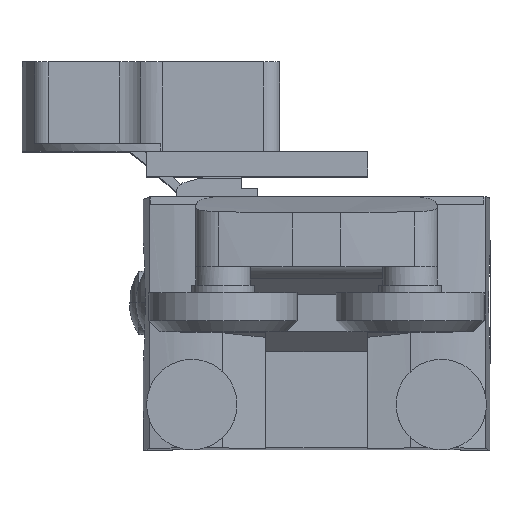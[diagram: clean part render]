
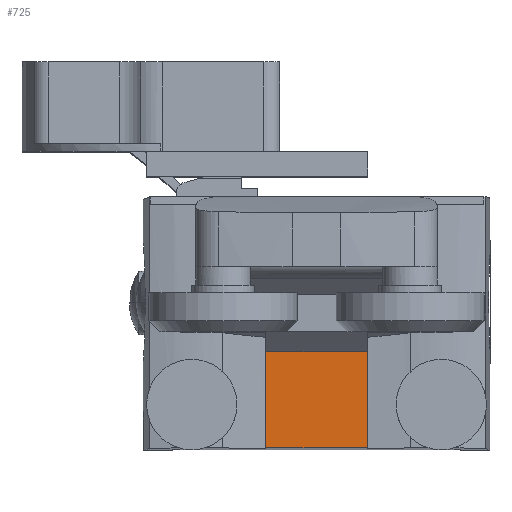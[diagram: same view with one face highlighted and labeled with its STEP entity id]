
A CAD part, top view. The second image highlights one B-rep face of the part: STEP entity #725.
In plain terms, the highlighted planar face has unit normal (0, 0, 1).
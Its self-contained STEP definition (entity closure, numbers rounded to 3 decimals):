
#725 = ADVANCED_FACE( '', ( #2151 ), #2152, .F. );
#2151 = FACE_OUTER_BOUND( '', #3640, .T. );
#2152 = PLANE( '', #3641 );
#3640 = EDGE_LOOP( '', ( #9634, #9635, #9636, #9637 ) );
#3641 = AXIS2_PLACEMENT_3D( '', #9638, #9639, #9640 );
#9634 = ORIENTED_EDGE( '', *, *, #12232, .F. );
#9635 = ORIENTED_EDGE( '', *, *, #12233, .T. );
#9636 = ORIENTED_EDGE( '', *, *, #12234, .F. );
#9637 = ORIENTED_EDGE( '', *, *, #12227, .F. );
#9638 = CARTESIAN_POINT( '', ( 23., -18.722, 12.6 ) );
#9639 = DIRECTION( '', ( 0., 0., -1. ) );
#9640 = DIRECTION( '', ( 0., -1., 0. ) );
#12227 = EDGE_CURVE( '', #15737, #15739, #15740, .T. );
#12232 = EDGE_CURVE( '', #15747, #15737, #15748, .T. );
#12233 = EDGE_CURVE( '', #15747, #15749, #15750, .T. );
#12234 = EDGE_CURVE( '', #15739, #15749, #15751, .T. );
#15737 = VERTEX_POINT( '', #21682 );
#15739 = VERTEX_POINT( '', #21684 );
#15740 = LINE( '', #21685, #21686 );
#15747 = VERTEX_POINT( '', #21706 );
#15748 = LINE( '', #21707, #21708 );
#15749 = VERTEX_POINT( '', #21709 );
#15750 = LINE( '', #21710, #21711 );
#15751 = LINE( '', #21712, #21713 );
#21682 = CARTESIAN_POINT( '', ( 6.5, -18.722, 12.6 ) );
#21684 = CARTESIAN_POINT( '', ( -6.5, -18.722, 12.6 ) );
#21685 = CARTESIAN_POINT( '', ( 23., -18.722, 12.6 ) );
#21686 = VECTOR( '', #24875, 1. );
#21706 = CARTESIAN_POINT( '', ( 6.5, -6.422, 12.6 ) );
#21707 = CARTESIAN_POINT( '', ( 6.5, -18.861, 12.6 ) );
#21708 = VECTOR( '', #24880, 1. );
#21709 = CARTESIAN_POINT( '', ( -6.5, -6.422, 12.6 ) );
#21710 = CARTESIAN_POINT( '', ( 23., -6.422, 12.6 ) );
#21711 = VECTOR( '', #24881, 1. );
#21712 = CARTESIAN_POINT( '', ( -6.5, -18.861, 12.6 ) );
#21713 = VECTOR( '', #24882, 1. );
#24875 = DIRECTION( '', ( -1., 0., 0. ) );
#24880 = DIRECTION( '', ( 0., -1., 0. ) );
#24881 = DIRECTION( '', ( -1., 0., 0. ) );
#24882 = DIRECTION( '', ( 0., 1., 0. ) );
